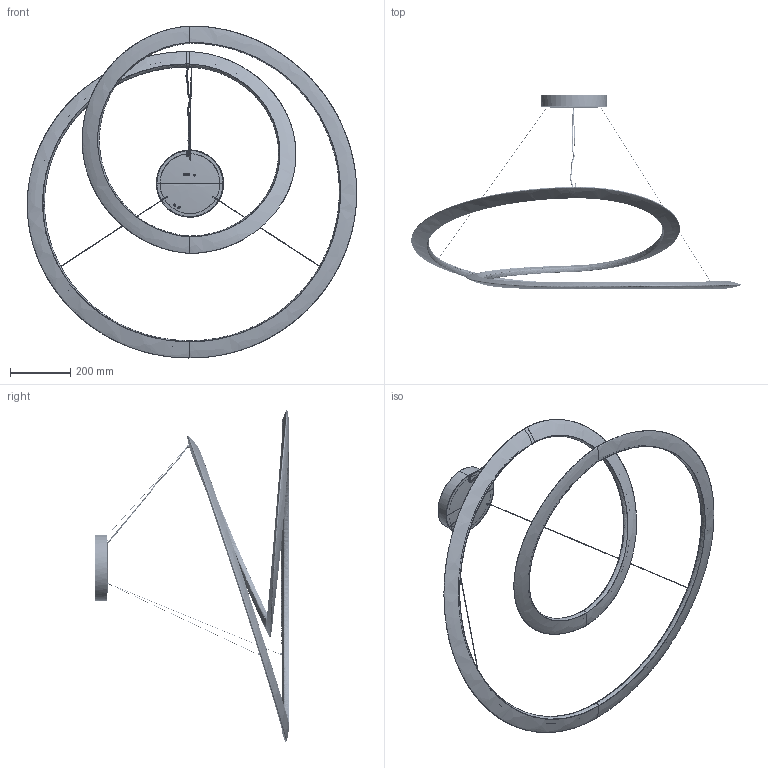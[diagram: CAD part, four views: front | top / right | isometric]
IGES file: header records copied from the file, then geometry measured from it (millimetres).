
Start section: SolidWorks IGES file using analytic representation for surfaces
Global section: file name: C:\Users\tungari.NEMOLIGHTING\Desktop\3D\PENDANT\3D_KEPLER_UP_LIGHT\DEF\3D_KEPLER_UP_LIGHT.IGS; native system: SolidWorks 2016; preprocessor: SolidWorks 2016; author: tungari; date: 180406.104331; units: millimetre
Bounding box: 1096.15 x 648.23 x 1104.88 mm (x, y, z)
Surface area: 1344051.6 mm2 (no closed solid volume)
Topology: 0 solids, 0 shells, 300 faces, 3033 edges, 3032 vertices
Faces by surface type: bspline 251, revolution 49
